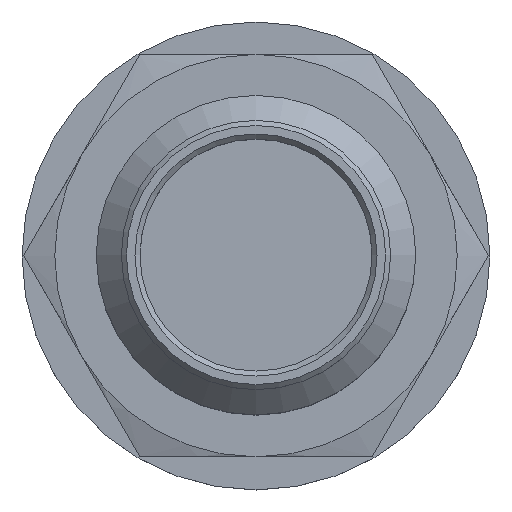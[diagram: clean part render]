
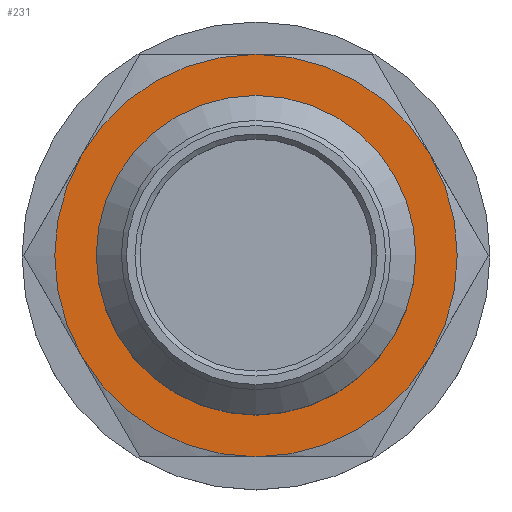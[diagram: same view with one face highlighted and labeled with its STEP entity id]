
A CAD part, top view. The second image highlights one B-rep face of the part: STEP entity #231.
In plain terms, the highlighted planar face has unit normal (0, 0, 1) as drawn and (1, 0, 0) by its records, which use the part's own axes.
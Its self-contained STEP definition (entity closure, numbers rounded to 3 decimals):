
#231=ADVANCED_FACE('',(#375,#376),#290,.F.);
#290=PLANE('',#1074);
#321=CIRCLE('',#1065,4.);
#322=CIRCLE('',#1067,4.);
#323=CIRCLE('',#1069,2.675);
#324=CIRCLE('',#1070,4.);
#325=CIRCLE('',#1071,4.);
#326=CIRCLE('',#1072,4.);
#327=CIRCLE('',#1073,4.);
#375=FACE_BOUND('',#438,.T.);
#376=FACE_BOUND('',#439,.T.);
#438=EDGE_LOOP('',(#555));
#439=EDGE_LOOP('',(#556,#557,#558,#559,#560,#561));
#555=ORIENTED_EDGE('',*,*,#882,.F.);
#556=ORIENTED_EDGE('',*,*,#881,.T.);
#557=ORIENTED_EDGE('',*,*,#878,.T.);
#558=ORIENTED_EDGE('',*,*,#883,.T.);
#559=ORIENTED_EDGE('',*,*,#884,.T.);
#560=ORIENTED_EDGE('',*,*,#885,.T.);
#561=ORIENTED_EDGE('',*,*,#886,.T.);
#778=VERTEX_POINT('',#1481);
#781=VERTEX_POINT('',#1494);
#787=VERTEX_POINT('',#1515);
#788=VERTEX_POINT('',#1528);
#789=VERTEX_POINT('',#1530);
#790=VERTEX_POINT('',#1532);
#791=VERTEX_POINT('',#1534);
#878=EDGE_CURVE('',#787,#781,#321,.T.);
#881=EDGE_CURVE('',#778,#787,#322,.T.);
#882=EDGE_CURVE('',#788,#788,#323,.T.);
#883=EDGE_CURVE('',#781,#789,#324,.T.);
#884=EDGE_CURVE('',#789,#790,#325,.T.);
#885=EDGE_CURVE('',#790,#791,#326,.T.);
#886=EDGE_CURVE('',#791,#778,#327,.T.);
#1065=AXIS2_PLACEMENT_3D('',#1514,#1218,#1219);
#1067=AXIS2_PLACEMENT_3D('',#1525,#1222,#1223);
#1069=AXIS2_PLACEMENT_3D('',#1527,#1226,#1227);
#1070=AXIS2_PLACEMENT_3D('',#1529,#1228,#1229);
#1071=AXIS2_PLACEMENT_3D('',#1531,#1230,#1231);
#1072=AXIS2_PLACEMENT_3D('',#1533,#1232,#1233);
#1073=AXIS2_PLACEMENT_3D('',#1535,#1234,#1235);
#1074=AXIS2_PLACEMENT_3D('',#1536,#1236,#1237);
#1218=DIRECTION('',(1.,0.,0.));
#1219=DIRECTION('',(0.,0.,-1.));
#1222=DIRECTION('',(1.,0.,0.));
#1223=DIRECTION('',(0.,0.,-1.));
#1226=DIRECTION('',(1.,0.,0.));
#1227=DIRECTION('',(0.,0.,-1.));
#1228=DIRECTION('',(1.,0.,0.));
#1229=DIRECTION('',(0.,0.,-1.));
#1230=DIRECTION('',(1.,0.,0.));
#1231=DIRECTION('',(0.,0.,-1.));
#1232=DIRECTION('',(1.,0.,0.));
#1233=DIRECTION('',(0.,0.,-1.));
#1234=DIRECTION('',(1.,0.,0.));
#1235=DIRECTION('',(0.,0.,-1.));
#1236=DIRECTION('',(-1.,0.,0.));
#1237=DIRECTION('',(0.,0.,1.));
#1481=CARTESIAN_POINT('',(1372.909,771.856,-3.464));
#1494=CARTESIAN_POINT('',(1372.909,771.856,3.464));
#1514=CARTESIAN_POINT('',(1372.909,769.856,0.));
#1515=CARTESIAN_POINT('',(1372.909,773.856,0.));
#1525=CARTESIAN_POINT('',(1372.909,769.856,0.));
#1527=CARTESIAN_POINT('',(1372.909,769.856,0.));
#1528=CARTESIAN_POINT('',(1372.909,769.856,-2.675));
#1529=CARTESIAN_POINT('',(1372.909,769.856,0.));
#1530=CARTESIAN_POINT('',(1372.909,767.856,3.464));
#1531=CARTESIAN_POINT('',(1372.909,769.856,0.));
#1532=CARTESIAN_POINT('',(1372.909,765.856,0.));
#1533=CARTESIAN_POINT('',(1372.909,769.856,0.));
#1534=CARTESIAN_POINT('',(1372.909,767.856,-3.464));
#1535=CARTESIAN_POINT('',(1372.909,769.856,0.));
#1536=CARTESIAN_POINT('',(1372.909,773.856,0.));
